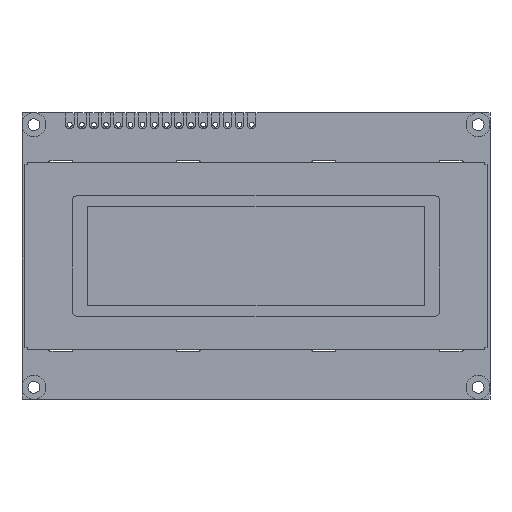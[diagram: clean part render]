
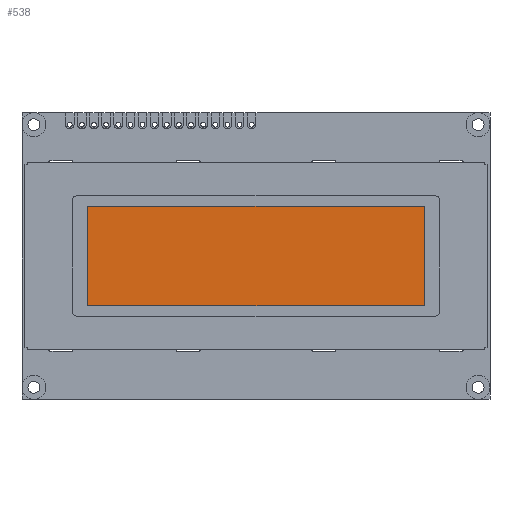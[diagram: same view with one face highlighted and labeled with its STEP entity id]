
A CAD part, top view. The second image highlights one B-rep face of the part: STEP entity #538.
In plain terms, the highlighted planar face has unit normal (0, 0, 1).
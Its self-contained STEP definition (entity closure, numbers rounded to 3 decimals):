
#15 = CARTESIAN_POINT ( 'NONE',  ( 35.2, 10.4, 10.4 ) ) ;
#538 = ADVANCED_FACE ( 'NONE', ( #17987 ), #9880, .T. ) ;
#744 = VECTOR ( 'NONE', #3171, 1000. ) ;
#791 = CARTESIAN_POINT ( 'NONE',  ( 0., 0., 10.4 ) ) ;
#1032 = VERTEX_POINT ( 'NONE', #17802 ) ;
#1205 = LINE ( 'NONE', #15240, #744 ) ;
#1873 = VECTOR ( 'NONE', #7813, 1000. ) ;
#1993 = CARTESIAN_POINT ( 'NONE',  ( -35.2, 10.4, 10.4 ) ) ;
#2373 = VERTEX_POINT ( 'NONE', #14261 ) ;
#3171 = DIRECTION ( 'NONE',  ( 0., 1., 0. ) ) ;
#3723 = AXIS2_PLACEMENT_3D ( 'NONE', #791, #9148, #8871 ) ;
#4114 = VERTEX_POINT ( 'NONE', #15 ) ;
#4168 = EDGE_CURVE ( 'NONE', #1032, #2373, #12763, .T. ) ;
#4377 = EDGE_CURVE ( 'NONE', #14743, #4114, #1205, .T. ) ;
#6613 = EDGE_CURVE ( 'NONE', #2373, #14743, #11643, .T. ) ;
#6854 = CARTESIAN_POINT ( 'NONE',  ( -35.2, -10.4, 10.4 ) ) ;
#7813 = DIRECTION ( 'NONE',  ( 0., -1., 0. ) ) ;
#7830 = VECTOR ( 'NONE', #17997, 1000. ) ;
#8871 = DIRECTION ( 'NONE',  ( 1., 0., 0. ) ) ;
#9148 = DIRECTION ( 'NONE',  ( 0., 0., 1. ) ) ;
#9880 = PLANE ( 'NONE',  #3723 ) ;
#10383 = VECTOR ( 'NONE', #16144, 1000. ) ;
#10697 = CARTESIAN_POINT ( 'NONE',  ( 35.2, -10.4, 10.4 ) ) ;
#11456 = EDGE_CURVE ( 'NONE', #4114, #1032, #18299, .T. ) ;
#11643 = LINE ( 'NONE', #6854, #7830 ) ;
#11726 = ORIENTED_EDGE ( 'NONE', *, *, #4168, .T. ) ;
#12176 = ORIENTED_EDGE ( 'NONE', *, *, #11456, .T. ) ;
#12763 = LINE ( 'NONE', #18287, #1873 ) ;
#14187 = EDGE_LOOP ( 'NONE', ( #11726, #14490, #14678, #12176 ) ) ;
#14261 = CARTESIAN_POINT ( 'NONE',  ( -35.2, -10.4, 10.4 ) ) ;
#14490 = ORIENTED_EDGE ( 'NONE', *, *, #6613, .T. ) ;
#14678 = ORIENTED_EDGE ( 'NONE', *, *, #4377, .T. ) ;
#14743 = VERTEX_POINT ( 'NONE', #10697 ) ;
#15240 = CARTESIAN_POINT ( 'NONE',  ( 35.2, 10.4, 10.4 ) ) ;
#16144 = DIRECTION ( 'NONE',  ( -1., 0., 0. ) ) ;
#17802 = CARTESIAN_POINT ( 'NONE',  ( -35.2, 10.4, 10.4 ) ) ;
#17987 = FACE_OUTER_BOUND ( 'NONE', #14187, .T. ) ;
#17997 = DIRECTION ( 'NONE',  ( 1., 0., 0. ) ) ;
#18287 = CARTESIAN_POINT ( 'NONE',  ( -35.2, 10.4, 10.4 ) ) ;
#18299 = LINE ( 'NONE', #1993, #10383 ) ;
